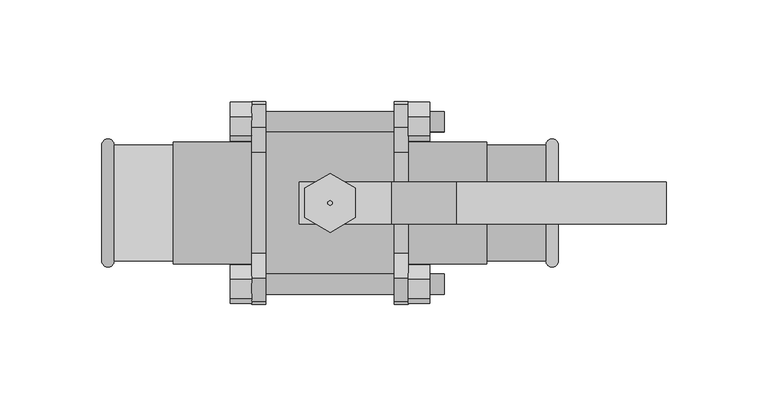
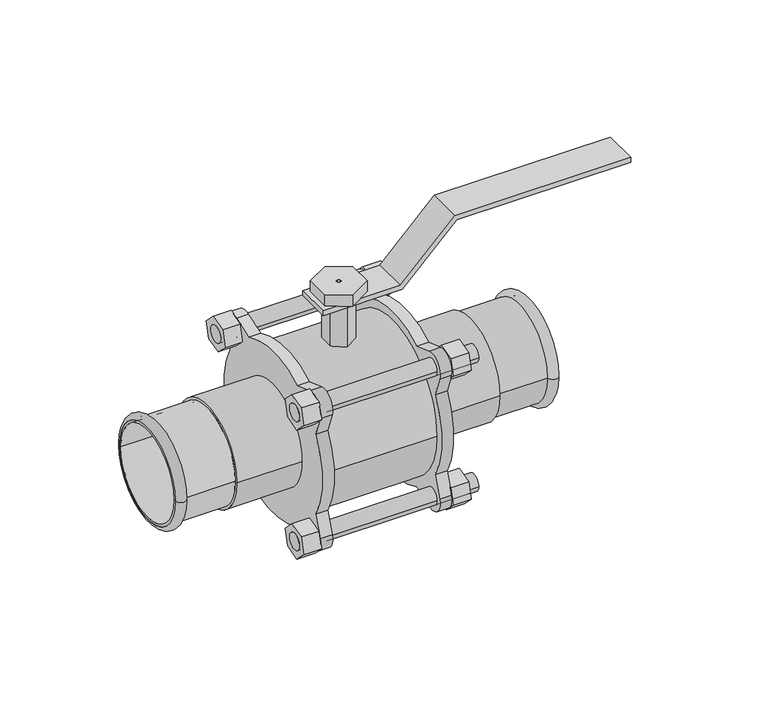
"""IFC4 building model written with IfcOpenShell, lengths in millimetres: valve geometry, NLRS_50_PIA_UN_Geberit Mapress rvs kogelkraan met bedieningshendel, geflensd (FKM blauw)_PRO_332967 : DN12-100 / d15-108 - OD."""

from ifc_helpers import new_model, si_unit, point, frame, frame_2d, origin, origin_2d, place, context, project, spatial, polyline, circle_curve, ellipse_curve, trimmed, segment, composite_curve, outline, extrude, source, transform, mapped, element, save
from ifc_brep_helpers import plane_surface, cylinder_surface, revolved_surface, advanced_brep


def valve_4572d53d(model_context):
    return source(origin(), model_context, "Body", "SolidModel", [
        extrude(outline(polyline([(70.0, 31.2426407), (102.0, 63.2426407), (102.0, 165.0), (105.0, 165.0), (105.0, 62.0), (73.0, 30.0), (73.0, -15.0), (70.0, -15.0), (70.0, 31.2426407)])), frame((0.0, -10.3125, 0.0), z_axis=(0.0, 1.0, 0.0), x_axis=(0.0, 0.0, 1.0)), (0.0, 0.0, 1.0), 20.625),
        advanced_brep(
        [(112.0, -28.5, 0.0), (112.0, 28.5, 0.0), (105.9987073, 28.5, 0.0), (105.9987073, -28.5, 0.0)],
        [
            (0, 1, circle_curve(frame((112.0, 0.0, 0.0), z_axis=(1.0, 0.0, 0.0), x_axis=(0.0, 1.0, 0.0)), 28.5)),
            (1, 2),
            (2, 3, circle_curve(frame((105.9987073, 0.0, 0.0), z_axis=(-1.0, 0.0, 0.0), x_axis=(0.0, 1.0, 0.0)), 28.5)),
            (3, 0),
            (1, 0, circle_curve(frame((112.0, 0.0, 0.0), z_axis=(1.0, 0.0, 0.0), x_axis=(0.0, 1.0, 0.0)), 28.5)),
            (3, 2, circle_curve(frame((105.9987073, 0.0, 0.0), z_axis=(-1.0, 0.0, 0.0), x_axis=(0.0, 1.0, 0.0)), 28.5)),
            (2, 1, circle_curve(frame((108.9993536, 28.5, 0.0), z_axis=(0.0, 0.0, -1.0), x_axis=(1.0, 0.0, 0.0)), 3.0006464)),
            (0, 3, circle_curve(frame((108.9993536, -28.5, 0.0), z_axis=(0.0, 0.0, -1.0), x_axis=(1.0, 0.0, 0.0)), 3.0006464)),
        ],
        [
            revolved_surface(polyline([(105.9987073, 28.5, 0.0), (112.0, 28.5, 0.0)]), (77.0, 0.0, 0.0), (-1.0, 0.0, 0.0)),
            revolved_surface(trimmed(ellipse_curve(frame((108.9993536, 28.5, 0.0), z_axis=(0.0, 0.0, 1.0), x_axis=(1.0, 0.0, 0.0)), 3.0006464, 3.0006464), [point((112.0, 28.5, 0.0))], [point((105.9987073, 28.5, 0.0))], True, "CARTESIAN"), (77.0, 0.0, 0.0), (-1.0, 0.0, 0.0)),
        ],
        [
            (0, [[1, 2, 3, 4]]),
            (0, [[5, -4, 6, -2]]),
            (1, [[-3, 7, -1, 8]]),
            (1, [[-6, -8, -5, -7]]),
        ],
    ),
        advanced_brep(
        [(112.0, -27.0, 0.0), (112.0, 27.0, 0.0), (76.0, 27.0, 0.0), (76.0, -27.0, 0.0), (112.0, -28.5, 0.0), (112.0, 28.5, 0.0), (77.0, -28.5, 0.0), (77.0, 28.5, 0.0)],
        [
            (0, 1, circle_curve(frame((112.0, 0.0, 0.0), z_axis=(1.0, 0.0, 0.0), x_axis=(0.0, 1.0, 0.0)), 27.0)),
            (1, 2),
            (2, 3, circle_curve(frame((76.0, 0.0, 0.0), z_axis=(-1.0, 0.0, 0.0), x_axis=(0.0, 1.0, 0.0)), 27.0)),
            (3, 0),
            (1, 0, circle_curve(frame((112.0, 0.0, 0.0), z_axis=(1.0, 0.0, 0.0), x_axis=(0.0, 1.0, 0.0)), 27.0)),
            (3, 2, circle_curve(frame((76.0, 0.0, 0.0), z_axis=(-1.0, 0.0, 0.0), x_axis=(0.0, 1.0, 0.0)), 27.0)),
            (4, 5, circle_curve(frame((112.0, 0.0, 0.0), z_axis=(1.0, 0.0, 0.0), x_axis=(0.0, 1.0, 0.0)), 28.5)),
            (5, 1),
            (0, 4),
            (5, 4, circle_curve(frame((112.0, 0.0, 0.0), z_axis=(1.0, 0.0, 0.0), x_axis=(0.0, 1.0, 0.0)), 28.5)),
            (6, 7, circle_curve(frame((77.0, 0.0, 0.0), z_axis=(1.0, 0.0, 0.0), x_axis=(0.0, 1.0, 0.0)), 28.5)),
            (7, 5),
            (4, 6),
            (7, 6, circle_curve(frame((77.0, 0.0, 0.0), z_axis=(1.0, 0.0, 0.0), x_axis=(0.0, 1.0, 0.0)), 28.5)),
            (2, 7),
            (6, 3),
        ],
        [
            revolved_surface(polyline([(76.0, 27.0, 0.0), (112.0, 27.0, 0.0)]), (77.0, 0.0, 0.0), (-1.0, 0.0, 0.0)),
            plane_surface(frame((112.0, 0.0, 0.0), z_axis=(1.0, 0.0, 0.0), x_axis=(0.0, 1.0, 0.0))),
            cylinder_surface(frame((77.0, 0.0, 0.0), z_axis=(-1.0, 0.0, 0.0), x_axis=(0.0, 1.0, 0.0)), 28.5),
            revolved_surface(polyline([(77.0, 28.5, 0.0), (76.0, 27.0, 0.0)]), (77.0, 0.0, 0.0), (-1.0, 0.0, 0.0)),
        ],
        [
            (0, [[1, 2, 3, 4]]),
            (0, [[5, -4, 6, -2]]),
            (1, [[7, 8, -1, 9]]),
            (1, [[10, -9, -5, -8]]),
            (2, [[11, 12, -7, 13]]),
            (2, [[14, -13, -10, -12]]),
            (3, [[-3, 15, -11, 16]]),
            (3, [[-6, -16, -14, -15]]),
        ],
    ),
        advanced_brep(
        [(-112.0, 28.5, 0.0), (-112.0, -28.5, 0.0), (-105.9987073, -28.5, 0.0), (-105.9987073, 28.5, 0.0)],
        [
            (0, 1, circle_curve(frame((-112.0, 0.0, 0.0), z_axis=(-1.0, 0.0, 0.0), x_axis=(0.0, -1.0, 0.0)), 28.5)),
            (1, 2),
            (2, 3, circle_curve(frame((-105.9987073, 0.0, 0.0), z_axis=(1.0, 0.0, 0.0), x_axis=(0.0, -1.0, 0.0)), 28.5)),
            (3, 0),
            (1, 0, circle_curve(frame((-112.0, 0.0, 0.0), z_axis=(-1.0, 0.0, 0.0), x_axis=(0.0, -1.0, 0.0)), 28.5)),
            (3, 2, circle_curve(frame((-105.9987073, 0.0, 0.0), z_axis=(1.0, 0.0, 0.0), x_axis=(0.0, -1.0, 0.0)), 28.5)),
            (2, 1, circle_curve(frame((-108.9993536, -28.5, 0.0), z_axis=(0.0, 0.0, -1.0), x_axis=(-1.0, 0.0, 0.0)), 3.0006464)),
            (0, 3, circle_curve(frame((-108.9993536, 28.5, 0.0), z_axis=(0.0, 0.0, -1.0), x_axis=(-1.0, 0.0, 0.0)), 3.0006464)),
        ],
        [
            revolved_surface(polyline([(-105.9987073, -28.5, 0.0), (-112.0, -28.5, 0.0)]), (-77.0, 0.0, 0.0), (1.0, 0.0, 0.0)),
            revolved_surface(trimmed(ellipse_curve(frame((-108.9993536, -28.5, 0.0), z_axis=(0.0, 0.0, 1.0), x_axis=(-1.0, 0.0, 0.0)), 3.0006464, 3.0006464), [point((-112.0, -28.5, 0.0))], [point((-105.9987073, -28.5, 0.0))], True, "CARTESIAN"), (-77.0, 0.0, 0.0), (1.0, 0.0, 0.0)),
        ],
        [
            (0, [[1, 2, 3, 4]]),
            (0, [[5, -4, 6, -2]]),
            (1, [[-3, 7, -1, 8]]),
            (1, [[-6, -8, -5, -7]]),
        ],
    ),
        advanced_brep(
        [(-112.0, 27.0, 0.0), (-112.0, -27.0, 0.0), (-76.0, -27.0, 0.0), (-76.0, 27.0, 0.0), (-112.0, 28.5, 0.0), (-112.0, -28.5, 0.0), (-77.0, 28.5, 0.0), (-77.0, -28.5, 0.0)],
        [
            (0, 1, circle_curve(frame((-112.0, 0.0, 0.0), z_axis=(-1.0, 0.0, 0.0), x_axis=(0.0, -1.0, 0.0)), 27.0)),
            (1, 2),
            (2, 3, circle_curve(frame((-76.0, 0.0, 0.0), z_axis=(1.0, 0.0, 0.0), x_axis=(0.0, -1.0, 0.0)), 27.0)),
            (3, 0),
            (1, 0, circle_curve(frame((-112.0, 0.0, 0.0), z_axis=(-1.0, 0.0, 0.0), x_axis=(0.0, -1.0, 0.0)), 27.0)),
            (3, 2, circle_curve(frame((-76.0, 0.0, 0.0), z_axis=(1.0, 0.0, 0.0), x_axis=(0.0, -1.0, 0.0)), 27.0)),
            (4, 5, circle_curve(frame((-112.0, 0.0, 0.0), z_axis=(-1.0, 0.0, 0.0), x_axis=(0.0, -1.0, 0.0)), 28.5)),
            (5, 1),
            (0, 4),
            (5, 4, circle_curve(frame((-112.0, 0.0, 0.0), z_axis=(-1.0, 0.0, 0.0), x_axis=(0.0, -1.0, 0.0)), 28.5)),
            (6, 7, circle_curve(frame((-77.0, 0.0, 0.0), z_axis=(-1.0, 0.0, 0.0), x_axis=(0.0, -1.0, 0.0)), 28.5)),
            (7, 5),
            (4, 6),
            (7, 6, circle_curve(frame((-77.0, 0.0, 0.0), z_axis=(-1.0, 0.0, 0.0), x_axis=(0.0, -1.0, 0.0)), 28.5)),
            (2, 7),
            (6, 3),
        ],
        [
            revolved_surface(polyline([(-76.0, -27.0, 0.0), (-112.0, -27.0, 0.0)]), (-77.0, 0.0, 0.0), (1.0, 0.0, 0.0)),
            plane_surface(frame((-112.0, 0.0, 0.0), z_axis=(-1.0, 0.0, 0.0), x_axis=(0.0, -1.0, 0.0))),
            cylinder_surface(frame((-77.0, 0.0, 0.0), z_axis=(1.0, 0.0, 0.0), x_axis=(0.0, -1.0, 0.0)), 28.5),
            revolved_surface(polyline([(-77.0, -28.5, 0.0), (-76.0, -27.0, 0.0)]), (-77.0, 0.0, 0.0), (1.0, 0.0, 0.0)),
        ],
        [
            (0, [[1, 2, 3, 4]]),
            (0, [[5, -4, 6, -2]]),
            (1, [[7, 8, -1, 9]]),
            (1, [[10, -9, -5, -8]]),
            (2, [[11, 12, -7, 13]]),
            (2, [[14, -13, -10, -12]]),
            (3, [[-3, 15, -11, 16]]),
            (3, [[-6, -16, -14, -15]]),
        ],
    ),
        advanced_brep(
        [(-49.0, -44.9515331, 39.9515331), (-49.0, -34.9515331, 39.9515331), (-49.0, 34.9515331, 39.9515331), (-49.0, 44.9515331, 39.9515331), (-49.0, -44.9515331, -39.9515331), (-49.0, -34.9515331, -39.9515331), (-49.0, 34.9515331, -39.9515331), (-49.0, 44.9515331, -39.9515331), (56.0, -44.9515331, 39.9515331), (56.0, -34.9515331, 39.9515331), (56.0, 34.9515331, 39.9515331), (56.0, 44.9515331, 39.9515331), (56.0, -44.9515331, -39.9515331), (56.0, -34.9515331, -39.9515331), (56.0, 34.9515331, -39.9515331), (56.0, 44.9515331, -39.9515331), (-38.5, -44.9515331, 39.9515331), (-38.5, -34.9515331, 39.9515331), (-31.5, -34.9515331, 39.9515331), (-31.5, -44.9515331, 39.9515331), (-38.5, 34.9515331, 39.9515331), (-38.5, 44.9515331, 39.9515331), (-31.5, 44.9515331, 39.9515331), (-31.5, 34.9515331, 39.9515331), (-38.5, -44.9515331, -39.9515331), (-38.5, -34.9515331, -39.9515331), (-31.5, -34.9515331, -39.9515331), (-31.5, -44.9515331, -39.9515331), (-38.5, 34.9515331, -39.9515331), (-38.5, 44.9515331, -39.9515331), (-31.5, 44.9515331, -39.9515331), (-31.5, 34.9515331, -39.9515331), (-38.5, -43.4565382, 24.7291181), (-38.5, -47.9389204, 37.0443619), (-38.5, -37.0443619, 47.9389204), (-38.5, -24.7291181, 43.4565382), (-38.5, 24.7291181, 43.4565382), (-38.5, 37.0443619, 47.9389204), (-38.5, 47.9389204, 37.0443619), (-38.5, 43.4565382, 24.7291181), (-38.5, 43.4565382, -24.7291181), (-38.5, 47.9389204, -37.0443619), (-38.5, 37.0443619, -47.9389204), (-38.5, 24.7291181, -43.4565382), (-38.5, -24.7291181, -43.4565382), (-38.5, -37.0443619, -47.9389204), (-38.5, -47.9389204, -37.0443619), (-38.5, -43.4565382, -24.7291181), (-31.5, -43.4565382, 24.7291181), (-31.5, -43.4565382, -24.7291181), (-31.5, -47.9389204, -37.0443619), (-31.5, -37.0443619, -47.9389204), (-31.5, -24.7291181, -43.4565382), (-31.5, 24.7291181, -43.4565382), (-31.5, 37.0443619, -47.9389204), (-31.5, 47.9389204, -37.0443619), (-31.5, 43.4565382, -24.7291181), (-31.5, 43.4565382, 24.7291181), (-31.5, 47.9389204, 37.0443619), (-31.5, 37.0443619, 47.9389204), (-31.5, 24.7291181, 43.4565382), (-31.5, -24.7291181, 43.4565382), (-31.5, -37.0443619, 47.9389204), (-31.5, -47.9389204, 37.0443619)],
        [
            (0, 1, circle_curve(frame((-49.0, -39.9515331, 39.9515331), z_axis=(-1.0, 0.0, 0.0), x_axis=(0.0, 1.0, 0.0)), 5.0)),
            (1, 0, circle_curve(frame((-49.0, -39.9515331, 39.9515331), z_axis=(-1.0, 0.0, 0.0), x_axis=(0.0, 1.0, 0.0)), 5.0)),
            (2, 3, circle_curve(frame((-49.0, 39.9515331, 39.9515331), z_axis=(-1.0, 0.0, 0.0), x_axis=(0.0, 1.0, 0.0)), 5.0)),
            (3, 2, circle_curve(frame((-49.0, 39.9515331, 39.9515331), z_axis=(-1.0, 0.0, 0.0), x_axis=(0.0, 1.0, 0.0)), 5.0)),
            (4, 5, circle_curve(frame((-49.0, -39.9515331, -39.9515331), z_axis=(-1.0, 0.0, 0.0), x_axis=(0.0, 1.0, 0.0)), 5.0)),
            (5, 4, circle_curve(frame((-49.0, -39.9515331, -39.9515331), z_axis=(-1.0, 0.0, 0.0), x_axis=(0.0, 1.0, 0.0)), 5.0)),
            (6, 7, circle_curve(frame((-49.0, 39.9515331, -39.9515331), z_axis=(-1.0, 0.0, 0.0), x_axis=(0.0, 1.0, 0.0)), 5.0)),
            (7, 6, circle_curve(frame((-49.0, 39.9515331, -39.9515331), z_axis=(-1.0, 0.0, 0.0), x_axis=(0.0, 1.0, 0.0)), 5.0)),
            (8, 9, circle_curve(frame((56.0, -39.9515331, 39.9515331), z_axis=(1.0, 0.0, 0.0), x_axis=(0.0, 1.0, 0.0)), 5.0)),
            (9, 8, circle_curve(frame((56.0, -39.9515331, 39.9515331), z_axis=(1.0, 0.0, 0.0), x_axis=(0.0, 1.0, 0.0)), 5.0)),
            (10, 11, circle_curve(frame((56.0, 39.9515331, 39.9515331), z_axis=(1.0, 0.0, 0.0), x_axis=(0.0, 1.0, 0.0)), 5.0)),
            (11, 10, circle_curve(frame((56.0, 39.9515331, 39.9515331), z_axis=(1.0, 0.0, 0.0), x_axis=(0.0, 1.0, 0.0)), 5.0)),
            (12, 13, circle_curve(frame((56.0, -39.9515331, -39.9515331), z_axis=(1.0, 0.0, 0.0), x_axis=(0.0, 1.0, 0.0)), 5.0)),
            (13, 12, circle_curve(frame((56.0, -39.9515331, -39.9515331), z_axis=(1.0, 0.0, 0.0), x_axis=(0.0, 1.0, 0.0)), 5.0)),
            (14, 15, circle_curve(frame((56.0, 39.9515331, -39.9515331), z_axis=(1.0, 0.0, 0.0), x_axis=(0.0, 1.0, 0.0)), 5.0)),
            (15, 14, circle_curve(frame((56.0, 39.9515331, -39.9515331), z_axis=(1.0, 0.0, 0.0), x_axis=(0.0, 1.0, 0.0)), 5.0)),
            (0, 16),
            (16, 17, circle_curve(frame((-38.5, -39.9515331, 39.9515331), z_axis=(-1.0, 0.0, 0.0), x_axis=(0.0, 1.0, 0.0)), 5.0)),
            (17, 1),
            (9, 18),
            (18, 19, circle_curve(frame((-31.5, -39.9515331, 39.9515331), z_axis=(1.0, 0.0, 0.0), x_axis=(0.0, 1.0, 0.0)), 5.0)),
            (19, 8),
            (17, 16, circle_curve(frame((-38.5, -39.9515331, 39.9515331), z_axis=(-1.0, 0.0, 0.0), x_axis=(0.0, 1.0, 0.0)), 5.0)),
            (19, 18, circle_curve(frame((-31.5, -39.9515331, 39.9515331), z_axis=(1.0, 0.0, 0.0), x_axis=(0.0, 1.0, 0.0)), 5.0)),
            (2, 20),
            (20, 21, circle_curve(frame((-38.5, 39.9515331, 39.9515331), z_axis=(-1.0, 0.0, 0.0), x_axis=(0.0, 1.0, 0.0)), 5.0)),
            (21, 3),
            (11, 22),
            (22, 23, circle_curve(frame((-31.5, 39.9515331, 39.9515331), z_axis=(1.0, 0.0, 0.0), x_axis=(0.0, 1.0, 0.0)), 5.0)),
            (23, 10),
            (21, 20, circle_curve(frame((-38.5, 39.9515331, 39.9515331), z_axis=(-1.0, 0.0, 0.0), x_axis=(0.0, 1.0, 0.0)), 5.0)),
            (23, 22, circle_curve(frame((-31.5, 39.9515331, 39.9515331), z_axis=(1.0, 0.0, 0.0), x_axis=(0.0, 1.0, 0.0)), 5.0)),
            (4, 24),
            (24, 25, circle_curve(frame((-38.5, -39.9515331, -39.9515331), z_axis=(-1.0, 0.0, 0.0), x_axis=(0.0, 1.0, 0.0)), 5.0)),
            (25, 5),
            (13, 26),
            (26, 27, circle_curve(frame((-31.5, -39.9515331, -39.9515331), z_axis=(1.0, 0.0, 0.0), x_axis=(0.0, 1.0, 0.0)), 5.0)),
            (27, 12),
            (25, 24, circle_curve(frame((-38.5, -39.9515331, -39.9515331), z_axis=(-1.0, 0.0, 0.0), x_axis=(0.0, 1.0, 0.0)), 5.0)),
            (27, 26, circle_curve(frame((-31.5, -39.9515331, -39.9515331), z_axis=(1.0, 0.0, 0.0), x_axis=(0.0, 1.0, 0.0)), 5.0)),
            (6, 28),
            (28, 29, circle_curve(frame((-38.5, 39.9515331, -39.9515331), z_axis=(-1.0, 0.0, 0.0), x_axis=(0.0, 1.0, 0.0)), 5.0)),
            (29, 7),
            (15, 30),
            (30, 31, circle_curve(frame((-31.5, 39.9515331, -39.9515331), z_axis=(1.0, 0.0, 0.0), x_axis=(0.0, 1.0, 0.0)), 5.0)),
            (31, 14),
            (29, 28, circle_curve(frame((-38.5, 39.9515331, -39.9515331), z_axis=(-1.0, 0.0, 0.0), x_axis=(0.0, 1.0, 0.0)), 5.0)),
            (31, 30, circle_curve(frame((-31.5, 39.9515331, -39.9515331), z_axis=(1.0, 0.0, 0.0), x_axis=(0.0, 1.0, 0.0)), 5.0)),
            (32, 33),
            (33, 34, circle_curve(frame((-38.5, -39.9515331, 39.9515331), z_axis=(-1.0, 0.0, 0.0), x_axis=(0.0, 1.0, 0.0)), 8.5)),
            (34, 35),
            (35, 36, circle_curve(frame((-38.5, 0.0, 0.0), z_axis=(-1.0, 0.0, 0.0), x_axis=(0.0, 1.0, 0.0)), 50.0)),
            (36, 37),
            (37, 38, circle_curve(frame((-38.5, 39.9515331, 39.9515331), z_axis=(-1.0, 0.0, 0.0), x_axis=(0.0, 1.0, 0.0)), 8.5)),
            (38, 39),
            (39, 40, circle_curve(frame((-38.5, 0.0, 0.0), z_axis=(-1.0, 0.0, 0.0), x_axis=(0.0, 1.0, 0.0)), 50.0)),
            (40, 41),
            (41, 42, circle_curve(frame((-38.5, 39.9515331, -39.9515331), z_axis=(-1.0, 0.0, 0.0), x_axis=(0.0, 1.0, 0.0)), 8.5)),
            (42, 43),
            (43, 44, circle_curve(frame((-38.5, 0.0, 0.0), z_axis=(-1.0, 0.0, 0.0), x_axis=(0.0, 1.0, 0.0)), 50.0)),
            (44, 45),
            (45, 46, circle_curve(frame((-38.5, -39.9515331, -39.9515331), z_axis=(-1.0, 0.0, 0.0), x_axis=(0.0, 1.0, 0.0)), 8.5)),
            (46, 47),
            (47, 32, circle_curve(frame((-38.5, 0.0, 0.0), z_axis=(-1.0, 0.0, 0.0), x_axis=(0.0, 1.0, 0.0)), 50.0)),
            (48, 49, circle_curve(frame((-31.5, 0.0, 0.0), z_axis=(1.0, 0.0, 0.0), x_axis=(0.0, 1.0, 0.0)), 50.0)),
            (49, 50),
            (50, 51, circle_curve(frame((-31.5, -39.9515331, -39.9515331), z_axis=(1.0, 0.0, 0.0), x_axis=(0.0, 1.0, 0.0)), 8.5)),
            (51, 52),
            (52, 53, circle_curve(frame((-31.5, 0.0, 0.0), z_axis=(1.0, 0.0, 0.0), x_axis=(0.0, 1.0, 0.0)), 50.0)),
            (53, 54),
            (54, 55, circle_curve(frame((-31.5, 39.9515331, -39.9515331), z_axis=(1.0, 0.0, 0.0), x_axis=(0.0, 1.0, 0.0)), 8.5)),
            (55, 56),
            (56, 57, circle_curve(frame((-31.5, 0.0, 0.0), z_axis=(1.0, 0.0, 0.0), x_axis=(0.0, 1.0, 0.0)), 50.0)),
            (57, 58),
            (58, 59, circle_curve(frame((-31.5, 39.9515331, 39.9515331), z_axis=(1.0, 0.0, 0.0), x_axis=(0.0, 1.0, 0.0)), 8.5)),
            (59, 60),
            (60, 61, circle_curve(frame((-31.5, 0.0, 0.0), z_axis=(1.0, 0.0, 0.0), x_axis=(0.0, 1.0, 0.0)), 50.0)),
            (61, 62),
            (62, 63, circle_curve(frame((-31.5, -39.9515331, 39.9515331), z_axis=(1.0, 0.0, 0.0), x_axis=(0.0, 1.0, 0.0)), 8.5)),
            (63, 48),
            (32, 48),
            (63, 33),
            (62, 34),
            (61, 35),
            (60, 36),
            (59, 37),
            (58, 38),
            (57, 39),
            (56, 40),
            (55, 41),
            (54, 42),
            (53, 43),
            (52, 44),
            (51, 45),
            (50, 46),
            (49, 47),
        ],
        [
            plane_surface(frame((-49.0, 0.0, 0.0), z_axis=(-1.0, 0.0, 0.0), x_axis=(0.0, 0.0, 1.0))),
            plane_surface(frame((56.0, 0.0, 0.0), z_axis=(1.0, 0.0, 0.0), x_axis=(0.0, 0.0, 1.0))),
            cylinder_surface(frame((-49.0, -39.9515331, 39.9515331), z_axis=(-1.0, 0.0, 0.0), x_axis=(0.0, 1.0, 0.0)), 5.0),
            cylinder_surface(frame((-49.0, 39.9515331, 39.9515331), z_axis=(-1.0, 0.0, 0.0), x_axis=(0.0, 1.0, 0.0)), 5.0),
            cylinder_surface(frame((-49.0, -39.9515331, -39.9515331), z_axis=(-1.0, 0.0, 0.0), x_axis=(0.0, 1.0, 0.0)), 5.0),
            cylinder_surface(frame((-49.0, 39.9515331, -39.9515331), z_axis=(-1.0, 0.0, 0.0), x_axis=(0.0, 1.0, 0.0)), 5.0),
            plane_surface(frame((-38.5, 0.0, 0.0), z_axis=(-1.0, 0.0, 0.0), x_axis=(0.0, 0.0, 1.0))),
            plane_surface(frame((-31.5, 0.0, 0.0), z_axis=(1.0, 0.0, 0.0), x_axis=(0.0, 0.0, 1.0))),
            plane_surface(frame((-38.5, -43.4565382, 24.7291181), z_axis=(0.0, -0.9396926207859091, -0.3420201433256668), x_axis=(1.0, 0.0, 0.0))),
            cylinder_surface(frame((-38.5, -39.9515331, 39.9515331), z_axis=(-1.0, 0.0, 0.0), x_axis=(0.0, 1.0, 0.0)), 8.5),
            plane_surface(frame((-38.5, -37.0443619, 47.9389204), z_axis=(0.0, 0.34202014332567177, 0.9396926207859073), x_axis=(1.0, 0.0, 0.0))),
            cylinder_surface(frame((-38.5, 0.0, 0.0), z_axis=(-1.0, 0.0, 0.0), x_axis=(0.0, 1.0, 0.0)), 50.0),
            plane_surface(frame((-38.5, 24.7291181, 43.4565382), z_axis=(0.0, -0.34202014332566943, 0.9396926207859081), x_axis=(1.0, 0.0, 0.0))),
            cylinder_surface(frame((-38.5, 39.9515331, 39.9515331), z_axis=(-1.0, 0.0, 0.0), x_axis=(0.0, 1.0, 0.0)), 8.5),
            plane_surface(frame((-38.5, 47.9389204, 37.0443619), z_axis=(0.0, 0.9396926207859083, -0.34202014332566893), x_axis=(1.0, 0.0, 0.0))),
            plane_surface(frame((-38.5, 43.4565382, -24.7291181), z_axis=(0.0, 0.9396926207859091, 0.34202014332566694), x_axis=(1.0, 0.0, 0.0))),
            cylinder_surface(frame((-38.5, 39.9515331, -39.9515331), z_axis=(-1.0, 0.0, 0.0), x_axis=(0.0, 1.0, 0.0)), 8.5),
            plane_surface(frame((-38.5, 37.0443619, -47.9389204), z_axis=(0.0, -0.3420201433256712, -0.9396926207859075), x_axis=(1.0, 0.0, 0.0))),
            plane_surface(frame((-38.5, -24.7291181, -43.4565382), z_axis=(0.0, 0.34202014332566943, -0.9396926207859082), x_axis=(1.0, 0.0, 0.0))),
            cylinder_surface(frame((-38.5, -39.9515331, -39.9515331), z_axis=(-1.0, 0.0, 0.0), x_axis=(0.0, 1.0, 0.0)), 8.5),
            plane_surface(frame((-38.5, -47.9389204, -37.0443619), z_axis=(0.0, -0.9396926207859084, 0.34202014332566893), x_axis=(1.0, 0.0, 0.0))),
        ],
        [
            (0, [[1, 2]]),
            (0, [[3, 4]]),
            (0, [[5, 6]]),
            (0, [[7, 8]]),
            (1, [[9, 10]]),
            (1, [[11, 12]]),
            (1, [[13, 14]]),
            (1, [[15, 16]]),
            (2, [[-1, 17, 18, 19]]),
            (2, [[-10, 20, 21, 22]]),
            (2, [[-2, -19, 23, -17]]),
            (2, [[-9, -22, 24, -20]]),
            (3, [[-3, 25, 26, 27]]),
            (3, [[-12, 28, 29, 30]]),
            (3, [[-4, -27, 31, -25]]),
            (3, [[-11, -30, 32, -28]]),
            (4, [[-5, 33, 34, 35]]),
            (4, [[-14, 36, 37, 38]]),
            (4, [[-6, -35, 39, -33]]),
            (4, [[-13, -38, 40, -36]]),
            (5, [[-7, 41, 42, 43]]),
            (5, [[-16, 44, 45, 46]]),
            (5, [[-8, -43, 47, -41]]),
            (5, [[-15, -46, 48, -44]]),
            (6, [[49, 50, 51, 52, 53, 54, 55, 56, 57, 58, 59, 60, 61, 62, 63, 64], [-18, -23], [-26, -31], [-34, -39], [-42, -47]]),
            (7, [[65, 66, 67, 68, 69, 70, 71, 72, 73, 74, 75, 76, 77, 78, 79, 80], [-21, -24], [-29, -32], [-37, -40], [-45, -48]]),
            (8, [[-49, 81, -80, 82]]),
            (9, [[-50, -82, -79, 83]]),
            (10, [[-51, -83, -78, 84]]),
            (11, [[-52, -84, -77, 85]]),
            (12, [[-53, -85, -76, 86]]),
            (13, [[-54, -86, -75, 87]]),
            (14, [[-55, -87, -74, 88]]),
            (11, [[-56, -88, -73, 89]]),
            (15, [[-57, -89, -72, 90]]),
            (16, [[-58, -90, -71, 91]]),
            (17, [[-59, -91, -70, 92]]),
            (11, [[-60, -92, -69, 93]]),
            (18, [[-61, -93, -68, 94]]),
            (19, [[-62, -94, -67, 95]]),
            (20, [[-63, -95, -66, 96]]),
            (11, [[-64, -96, -65, -81]]),
        ],
    ),
        advanced_brep(
        [(-31.5, -45.0, 0.0), (-31.5, 45.0, 0.0), (31.5, -45.0, 0.0), (31.5, 45.0, 0.0), (0.0, -8.660254, 44.1588043), (-7.5, -4.330127, 44.7911822), (-7.5, 4.330127, 44.7911822), (0.0, 8.660254, 44.1588043), (7.5, 4.330127, 44.7911822), (7.5, -4.330127, 44.7911822), (-1.0, -0.5773503, 44.9962961), (0.0, -1.1547005, 44.9851827), (1.0, -0.5773503, 44.9962961), (1.0, 0.5773503, 44.9962961), (0.0, 1.1547005, 44.9851827), (-1.0, 0.5773503, 44.9962961), (-12.5, -7.2168784, 80.0), (-12.5, -7.2168784, 73.0), (0.0, -14.4337567, 73.0), (0.0, -14.4337567, 80.0), (-1.0, -0.5773503, 80.0), (0.0, -1.1547005, 80.0), (0.0, -8.660254, 73.0), (-7.5, -4.330127, 73.0), (12.5, -7.2168784, 73.0), (12.5, -7.2168784, 80.0), (1.0, -0.5773503, 80.0), (7.5, -4.330127, 73.0), (12.5, 7.2168784, 80.0), (12.5, 7.2168784, 73.0), (0.0, 14.4337567, 73.0), (0.0, 14.4337567, 80.0), (1.0, 0.5773503, 80.0), (0.0, 1.1547005, 80.0), (0.0, 8.660254, 73.0), (7.5, 4.330127, 73.0), (-12.5, 7.2168784, 73.0), (-12.5, 7.2168784, 80.0), (-1.0, 0.5773503, 80.0), (-7.5, 4.330127, 73.0)],
        [
            (0, 1, circle_curve(frame((-31.5, 0.0, 0.0), z_axis=(-1.0, 0.0, 0.0), x_axis=(0.0, 1.0, 0.0)), 45.0)),
            (1, 0, circle_curve(frame((-31.5, 0.0, 0.0), z_axis=(-1.0, 0.0, 0.0), x_axis=(0.0, 1.0, 0.0)), 45.0)),
            (2, 3, circle_curve(frame((31.5, 0.0, 0.0), z_axis=(1.0, 0.0, 0.0), x_axis=(0.0, 1.0, 0.0)), 45.0)),
            (3, 2, circle_curve(frame((31.5, 0.0, 0.0), z_axis=(1.0, 0.0, 0.0), x_axis=(0.0, 1.0, 0.0)), 45.0)),
            (0, 2),
            (3, 1),
            (4, 5, ellipse_curve(frame((-15.0, 0.0, 0.0), z_axis=(-0.5000000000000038, -0.8660254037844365, 0.0), x_axis=(-0.8660254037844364, 0.5000000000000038, 0.0)), 90.0, 45.0)),
            (5, 6, circle_curve(frame((-7.5, 0.0, 0.0), z_axis=(-1.0, 0.0, 0.0), x_axis=(0.0, 1.0, 0.0)), 45.0)),
            (6, 7, ellipse_curve(frame((-15.0, 0.0, 0.0), z_axis=(-0.4999999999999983, 0.8660254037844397, 0.0), x_axis=(-0.8660254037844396, -0.4999999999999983, 0.0)), 90.0, 45.0)),
            (7, 8, ellipse_curve(frame((15.0, 0.0, 0.0), z_axis=(0.5000000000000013, 0.8660254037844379, 0.0), x_axis=(-0.8660254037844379, 0.5000000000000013, 0.0)), 90.0, 45.0)),
            (8, 9, circle_curve(frame((7.5, 0.0, 0.0), z_axis=(1.0, 0.0, 0.0), x_axis=(0.0, 1.0, 0.0)), 45.0)),
            (9, 4, ellipse_curve(frame((15.0, 0.0, 0.0), z_axis=(0.4999999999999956, -0.8660254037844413, 0.0), x_axis=(-0.8660254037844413, -0.49999999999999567, 0.0)), 90.0, 45.0)),
            (10, 11, ellipse_curve(frame((-2.0, 0.0, 0.0), z_axis=(0.5000000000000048, 0.866025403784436, 0.0), x_axis=(-0.8660254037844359, 0.5000000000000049, 0.0)), 90.0, 45.0)),
            (11, 12, ellipse_curve(frame((2.0, 0.0, 0.0), z_axis=(-0.4999999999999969, 0.8660254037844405, 0.0), x_axis=(-0.8660254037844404, -0.4999999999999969, 0.0)), 90.0, 45.0)),
            (12, 13, circle_curve(frame((1.0, 0.0, 0.0), z_axis=(-1.0, 0.0, 0.0), x_axis=(0.0, 1.0, 0.0)), 45.0)),
            (13, 14, ellipse_curve(frame((2.0, 0.0, 0.0), z_axis=(-0.5000000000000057, -0.8660254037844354, 0.0), x_axis=(-0.8660254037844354, 0.5000000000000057, 0.0)), 90.0, 45.0)),
            (14, 15, ellipse_curve(frame((-2.0, 0.0, 0.0), z_axis=(0.5000000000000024, -0.8660254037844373, 0.0), x_axis=(-0.8660254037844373, -0.5000000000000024, 0.0)), 90.0, 45.0)),
            (15, 10, circle_curve(frame((-1.0, 0.0, 0.0), z_axis=(1.0, 0.0, 0.0), x_axis=(0.0, 1.0, 0.0)), 45.0)),
            (16, 17),
            (17, 18),
            (18, 19),
            (19, 16),
            (20, 21),
            (21, 11),
            (10, 20),
            (22, 23),
            (23, 5),
            (4, 22),
            (18, 24),
            (24, 25),
            (25, 19),
            (21, 26),
            (26, 12),
            (27, 22),
            (9, 27),
            (28, 29),
            (29, 30),
            (30, 31),
            (31, 28),
            (32, 33),
            (33, 14),
            (13, 32),
            (34, 35),
            (35, 8),
            (7, 34),
            (30, 36),
            (36, 37),
            (37, 31),
            (33, 38),
            (38, 15),
            (39, 34),
            (6, 39),
            (24, 29),
            (28, 25),
            (26, 32),
            (35, 27),
            (17, 36),
            (39, 23),
            (16, 37),
            (20, 38),
        ],
        [
            plane_surface(frame((-31.5, 0.0, 0.0), z_axis=(-1.0, 0.0, 0.0), x_axis=(0.0, 0.0, 1.0))),
            plane_surface(frame((31.5, 0.0, 0.0), z_axis=(1.0, 0.0, 0.0), x_axis=(0.0, 0.0, 1.0))),
            cylinder_surface(frame((-31.5, 0.0, 0.0), z_axis=(-1.0, 0.0, 0.0), x_axis=(0.0, 1.0, 0.0)), 45.0),
            plane_surface(frame((-12.5, -7.2168784, 73.0), z_axis=(-0.5000000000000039, -0.8660254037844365, 0.0), x_axis=(0.8660254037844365, -0.5000000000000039, 0.0))),
            plane_surface(frame((-1.0, -0.5773503, 80.0), z_axis=(0.5000000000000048, 0.866025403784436, 0.0), x_axis=(0.866025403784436, -0.5000000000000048, 0.0))),
            plane_surface(frame((-7.5, -4.330127, 0.0), z_axis=(-0.5000000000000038, -0.8660254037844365, 0.0), x_axis=(0.8660254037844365, -0.5000000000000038, 0.0))),
            plane_surface(frame((0.0, -14.4337567, 73.0), z_axis=(0.49999999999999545, -0.8660254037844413, 0.0), x_axis=(0.8660254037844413, 0.49999999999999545, 0.0))),
            plane_surface(frame((0.0, -1.1547005, 80.0), z_axis=(-0.4999999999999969, 0.8660254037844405, 0.0), x_axis=(0.8660254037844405, 0.4999999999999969, 0.0))),
            plane_surface(frame((0.0, -8.660254, 0.0), z_axis=(0.4999999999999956, -0.8660254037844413, 0.0), x_axis=(0.8660254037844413, 0.4999999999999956, 0.0))),
            plane_surface(frame((12.5, 7.2168784, 73.0), z_axis=(0.5000000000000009, 0.8660254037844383, 0.0), x_axis=(-0.8660254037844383, 0.5000000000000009, 0.0))),
            plane_surface(frame((1.0, 0.5773503, 80.0), z_axis=(-0.5000000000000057, -0.8660254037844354, 0.0), x_axis=(-0.8660254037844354, 0.5000000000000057, 0.0))),
            plane_surface(frame((7.5, 4.330127, 0.0), z_axis=(0.5000000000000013, 0.8660254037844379, 0.0), x_axis=(-0.8660254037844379, 0.5000000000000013, 0.0))),
            plane_surface(frame((0.0, 14.4337567, 73.0), z_axis=(-0.4999999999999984, 0.8660254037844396, 0.0), x_axis=(-0.8660254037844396, -0.4999999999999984, 0.0))),
            plane_surface(frame((0.0, 1.1547005, 80.0), z_axis=(0.5000000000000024, -0.8660254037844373, 0.0), x_axis=(-0.8660254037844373, -0.5000000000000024, 0.0))),
            plane_surface(frame((0.0, 8.660254, 0.0), z_axis=(-0.4999999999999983, 0.8660254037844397, 0.0), x_axis=(-0.8660254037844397, -0.4999999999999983, 0.0))),
            plane_surface(frame((12.5, -7.2168784, 73.0), z_axis=(1.0, 0.0, 0.0), x_axis=(0.0, 1.0, 0.0))),
            plane_surface(frame((1.0, -0.5773503, 80.0), z_axis=(-1.0, 0.0, 0.0), x_axis=(0.0, 1.0, 0.0))),
            plane_surface(frame((7.5, -4.330127, 0.0), z_axis=(1.0, 0.0, 0.0), x_axis=(0.0, 1.0, 0.0))),
            plane_surface(frame((-7.5, 4.330127, 73.0), z_axis=(0.0, 0.0, -1.0), x_axis=(0.0, -1.0, 0.0))),
            plane_surface(frame((-12.5, 7.2168784, 73.0), z_axis=(-1.0, 0.0, 0.0), x_axis=(0.0, -1.0, 0.0))),
            plane_surface(frame((-12.5, 7.2168784, 80.0), z_axis=(0.0, 0.0, 1.0), x_axis=(0.0, -1.0, 0.0))),
            plane_surface(frame((-1.0, 0.5773503, 80.0), z_axis=(1.0, 0.0, 0.0), x_axis=(0.0, -1.0, 0.0))),
            plane_surface(frame((-7.5, 4.330127, 0.0), z_axis=(-1.0, 0.0, 0.0), x_axis=(0.0, -1.0, 0.0))),
        ],
        [
            (0, [[1, 2]]),
            (1, [[3, 4]]),
            (2, [[-1, 5, -4, 6], [7, 8, 9, 10, 11, 12]]),
            (2, [[13, 14, 15, 16, 17, 18]]),
            (2, [[-2, -6, -3, -5]]),
            (3, [[19, 20, 21, 22]]),
            (4, [[23, 24, -13, 25]]),
            (5, [[26, 27, -7, 28]]),
            (6, [[-21, 29, 30, 31]]),
            (7, [[32, 33, -14, -24]]),
            (8, [[34, -28, -12, 35]]),
            (9, [[36, 37, 38, 39]]),
            (10, [[40, 41, -16, 42]]),
            (11, [[43, 44, -10, 45]]),
            (12, [[-38, 46, 47, 48]]),
            (13, [[49, 50, -17, -41]]),
            (14, [[51, -45, -9, 52]]),
            (15, [[-30, 53, -36, 54]]),
            (16, [[55, -42, -15, -33]]),
            (17, [[56, -35, -11, -44]]),
            (18, [[-20, 57, -46, -37, -53, -29], [-26, -34, -56, -43, -51, 58]]),
            (19, [[-19, 59, -47, -57]]),
            (20, [[-22, -31, -54, -39, -48, -59], [-23, 60, -49, -40, -55, -32]]),
            (21, [[-60, -25, -18, -50]]),
            (22, [[-58, -52, -8, -27]]),
        ],
    ),
        extrude(outline(composite_curve([segment(trimmed(circle_curve(origin_2d(), 30.0), [point((-30.0, 0.0))], [point((30.0, 0.0))], False, "CARTESIAN"), True, "CONTINUOUS"), segment(trimmed(circle_curve(origin_2d(), 30.0), [point((30.0, 0.0))], [point((-30.0, 0.0))], False, "CARTESIAN"), True, "CONTINUOUS")], self_intersect=False)), frame((38.5, 0.0, 0.0), z_axis=(1.0, 0.0, 0.0), x_axis=(0.0, 1.0, 0.0)), (0.0, 0.0, 1.0), 38.5),
        extrude(outline(composite_curve([segment(trimmed(circle_curve(origin_2d(), 30.0), [point((-30.0, 0.0))], [point((30.0, 0.0))], False, "CARTESIAN"), True, "CONTINUOUS"), segment(trimmed(circle_curve(origin_2d(), 30.0), [point((30.0, 0.0))], [point((-30.0, 0.0))], False, "CARTESIAN"), True, "CONTINUOUS")], self_intersect=False)), frame((-77.0, 0.0, 0.0), z_axis=(1.0, 0.0, 0.0), x_axis=(0.0, 1.0, 0.0)), (0.0, 0.0, 1.0), 38.5),
        extrude(outline(polyline([(46.8917541, 33.0113122), (37.411236, 30.471015), (30.471015, 37.411236), (33.0113122, 46.8917541), (42.4918303, 49.4320512), (49.4320512, 42.4918303), (46.8917541, 33.0113122)]), holes=[composite_curve([segment(trimmed(circle_curve(frame_2d((39.9515331, 39.9515331)), 5.0), [point((44.9515331, 39.9515331))], [point((34.9515331, 39.9515331))], True, "CARTESIAN"), True, "CONTINUOUS"), segment(trimmed(circle_curve(frame_2d((39.9515331, 39.9515331)), 5.0), [point((34.9515331, 39.9515331))], [point((44.9515331, 39.9515331))], True, "CARTESIAN"), True, "CONTINUOUS")], self_intersect=False)]), frame((38.5, 0.0, 0.0), z_axis=(1.0, 0.0, 0.0), x_axis=(0.0, 1.0, 0.0)), (0.0, 0.0, 1.0), 10.5),
        extrude(outline(polyline([(-33.0113122, 33.0113122), (-42.4918303, 30.471015), (-49.4320512, 37.411236), (-46.8917541, 46.8917541), (-37.411236, 49.4320512), (-30.471015, 42.4918303), (-33.0113122, 33.0113122)]), holes=[composite_curve([segment(trimmed(circle_curve(frame_2d((-39.9515331, 39.9515331)), 5.0), [point((-34.9515331, 39.9515331))], [point((-44.9515331, 39.9515331))], True, "CARTESIAN"), True, "CONTINUOUS"), segment(trimmed(circle_curve(frame_2d((-39.9515331, 39.9515331)), 5.0), [point((-44.9515331, 39.9515331))], [point((-34.9515331, 39.9515331))], True, "CARTESIAN"), True, "CONTINUOUS")], self_intersect=False)]), frame((38.5, 0.0, 0.0), z_axis=(1.0, 0.0, 0.0), x_axis=(0.0, 1.0, 0.0)), (0.0, 0.0, 1.0), 10.5),
        extrude(outline(polyline([(-33.0113122, -46.8917541), (-42.4918303, -49.4320512), (-49.4320512, -42.4918303), (-46.8917541, -33.0113122), (-37.411236, -30.471015), (-30.471015, -37.411236), (-33.0113122, -46.8917541)]), holes=[composite_curve([segment(trimmed(circle_curve(frame_2d((-39.9515331, -39.9515331)), 5.0), [point((-34.9515331, -39.9515331))], [point((-44.9515331, -39.9515331))], True, "CARTESIAN"), True, "CONTINUOUS"), segment(trimmed(circle_curve(frame_2d((-39.9515331, -39.9515331)), 5.0), [point((-44.9515331, -39.9515331))], [point((-34.9515331, -39.9515331))], True, "CARTESIAN"), True, "CONTINUOUS")], self_intersect=False)]), frame((38.5, 0.0, 0.0), z_axis=(1.0, 0.0, 0.0), x_axis=(0.0, 1.0, 0.0)), (0.0, 0.0, 1.0), 10.5),
        extrude(outline(polyline([(46.8917541, -46.8917541), (37.411236, -49.4320512), (30.471015, -42.4918303), (33.0113122, -33.0113122), (42.4918303, -30.471015), (49.4320512, -37.411236), (46.8917541, -46.8917541)]), holes=[composite_curve([segment(trimmed(circle_curve(frame_2d((39.9515331, -39.9515331)), 5.0), [point((44.9515331, -39.9515331))], [point((34.9515331, -39.9515331))], True, "CARTESIAN"), True, "CONTINUOUS"), segment(trimmed(circle_curve(frame_2d((39.9515331, -39.9515331)), 5.0), [point((34.9515331, -39.9515331))], [point((44.9515331, -39.9515331))], True, "CARTESIAN"), True, "CONTINUOUS")], self_intersect=False)]), frame((38.5, 0.0, 0.0), z_axis=(1.0, 0.0, 0.0), x_axis=(0.0, 1.0, 0.0)), (0.0, 0.0, 1.0), 10.5),
        extrude(outline(polyline([(46.8917541, 33.0113122), (37.411236, 30.471015), (30.471015, 37.411236), (33.0113122, 46.8917541), (42.4918303, 49.4320512), (49.4320512, 42.4918303), (46.8917541, 33.0113122)]), holes=[composite_curve([segment(trimmed(circle_curve(frame_2d((39.9515331, 39.9515331)), 5.0), [point((44.9515331, 39.9515331))], [point((34.9515331, 39.9515331))], True, "CARTESIAN"), True, "CONTINUOUS"), segment(trimmed(circle_curve(frame_2d((39.9515331, 39.9515331)), 5.0), [point((34.9515331, 39.9515331))], [point((44.9515331, 39.9515331))], True, "CARTESIAN"), True, "CONTINUOUS")], self_intersect=False)]), frame((-49.0, 0.0, 0.0), z_axis=(1.0, 0.0, 0.0), x_axis=(0.0, 1.0, 0.0)), (0.0, 0.0, 1.0), 10.5),
        extrude(outline(polyline([(-33.0113122, 33.0113122), (-42.4918303, 30.471015), (-49.4320512, 37.411236), (-46.8917541, 46.8917541), (-37.411236, 49.4320512), (-30.471015, 42.4918303), (-33.0113122, 33.0113122)]), holes=[composite_curve([segment(trimmed(circle_curve(frame_2d((-39.9515331, 39.9515331)), 5.0), [point((-34.9515331, 39.9515331))], [point((-44.9515331, 39.9515331))], True, "CARTESIAN"), True, "CONTINUOUS"), segment(trimmed(circle_curve(frame_2d((-39.9515331, 39.9515331)), 5.0), [point((-44.9515331, 39.9515331))], [point((-34.9515331, 39.9515331))], True, "CARTESIAN"), True, "CONTINUOUS")], self_intersect=False)]), frame((-49.0, 0.0, 0.0), z_axis=(1.0, 0.0, 0.0), x_axis=(0.0, 1.0, 0.0)), (0.0, 0.0, 1.0), 10.5),
        extrude(outline(polyline([(-33.0113122, -46.8917541), (-42.4918303, -49.4320512), (-49.4320512, -42.4918303), (-46.8917541, -33.0113122), (-37.411236, -30.471015), (-30.471015, -37.411236), (-33.0113122, -46.8917541)]), holes=[composite_curve([segment(trimmed(circle_curve(frame_2d((-39.9515331, -39.9515331)), 5.0), [point((-34.9515331, -39.9515331))], [point((-44.9515331, -39.9515331))], True, "CARTESIAN"), True, "CONTINUOUS"), segment(trimmed(circle_curve(frame_2d((-39.9515331, -39.9515331)), 5.0), [point((-44.9515331, -39.9515331))], [point((-34.9515331, -39.9515331))], True, "CARTESIAN"), True, "CONTINUOUS")], self_intersect=False)]), frame((-49.0, 0.0, 0.0), z_axis=(1.0, 0.0, 0.0), x_axis=(0.0, 1.0, 0.0)), (0.0, 0.0, 1.0), 10.5),
        extrude(outline(polyline([(46.8917541, -46.8917541), (37.411236, -49.4320512), (30.471015, -42.4918303), (33.0113122, -33.0113122), (42.4918303, -30.471015), (49.4320512, -37.411236), (46.8917541, -46.8917541)]), holes=[composite_curve([segment(trimmed(circle_curve(frame_2d((39.9515331, -39.9515331)), 5.0), [point((44.9515331, -39.9515331))], [point((34.9515331, -39.9515331))], True, "CARTESIAN"), True, "CONTINUOUS"), segment(trimmed(circle_curve(frame_2d((39.9515331, -39.9515331)), 5.0), [point((34.9515331, -39.9515331))], [point((44.9515331, -39.9515331))], True, "CARTESIAN"), True, "CONTINUOUS")], self_intersect=False)]), frame((-49.0, 0.0, 0.0), z_axis=(1.0, 0.0, 0.0), x_axis=(0.0, 1.0, 0.0)), (0.0, 0.0, 1.0), 10.5),
        extrude(outline(composite_curve([segment(polyline([(-43.4565382, 24.7291181), (-47.9389204, 37.0443619)]), True, "CONTINUOUS"), segment(trimmed(circle_curve(frame_2d((-39.9515331, 39.9515331)), 8.5), [point((-47.9389204, 37.0443619))], [point((-37.0443619, 47.9389204))], False, "CARTESIAN"), True, "CONTINUOUS"), segment(polyline([(-37.0443619, 47.9389204), (-24.7291181, 43.4565382)]), True, "CONTINUOUS"), segment(trimmed(circle_curve(origin_2d(), 50.0), [point((-24.7291181, 43.4565382))], [point((24.7291181, 43.4565382))], False, "CARTESIAN"), True, "CONTINUOUS"), segment(polyline([(24.7291181, 43.4565382), (37.0443619, 47.9389204)]), True, "CONTINUOUS"), segment(trimmed(circle_curve(frame_2d((39.9515331, 39.9515331)), 8.5), [point((37.0443619, 47.9389204))], [point((47.9389204, 37.0443619))], False, "CARTESIAN"), True, "CONTINUOUS"), segment(polyline([(47.9389204, 37.0443619), (43.4565382, 24.7291181)]), True, "CONTINUOUS"), segment(trimmed(circle_curve(origin_2d(), 50.0), [point((43.4565382, 24.7291181))], [point((43.4565382, -24.7291181))], False, "CARTESIAN"), True, "CONTINUOUS"), segment(polyline([(43.4565382, -24.7291181), (47.9389204, -37.0443619)]), True, "CONTINUOUS"), segment(trimmed(circle_curve(frame_2d((39.9515331, -39.9515331)), 8.5), [point((47.9389204, -37.0443619))], [point((37.0443619, -47.9389204))], False, "CARTESIAN"), True, "CONTINUOUS"), segment(polyline([(37.0443619, -47.9389204), (24.7291181, -43.4565382)]), True, "CONTINUOUS"), segment(trimmed(circle_curve(origin_2d(), 50.0), [point((24.7291181, -43.4565382))], [point((-24.7291181, -43.4565382))], False, "CARTESIAN"), True, "CONTINUOUS"), segment(polyline([(-24.7291181, -43.4565382), (-37.0443619, -47.9389204)]), True, "CONTINUOUS"), segment(trimmed(circle_curve(frame_2d((-39.9515331, -39.9515331)), 8.5), [point((-37.0443619, -47.9389204))], [point((-47.9389204, -37.0443619))], False, "CARTESIAN"), True, "CONTINUOUS"), segment(polyline([(-47.9389204, -37.0443619), (-43.4565382, -24.7291181)]), True, "CONTINUOUS"), segment(trimmed(circle_curve(origin_2d(), 50.0), [point((-43.4565382, -24.7291181))], [point((-43.4565382, 24.7291181))], False, "CARTESIAN"), True, "CONTINUOUS")], self_intersect=False)), frame((31.5, 0.0, 0.0), z_axis=(1.0, 0.0, 0.0), x_axis=(0.0, 1.0, 0.0)), (0.0, 0.0, 1.0), 7.0),
    ])


if __name__ == "__main__":
    model = new_model("IFC4")
    model_context = context("Model", 3, world=origin())
    ifc_project = project(units=[si_unit("LENGTHUNIT", "METRE", prefix="MILLI")], contexts=[model_context])
    site = spatial("IfcSite", under=ifc_project)
    building = spatial("IfcBuilding", under=site)
    placement = place(None, origin())
    valve_shape = valve_4572d53d(model_context)
    element("IfcValve", 1, ObjectType="NLRS_50_PIA_UN_Geberit Mapress rvs kogelkraan met bedieningshendel, geflensd (FKM blauw)_PRO_332967 : DN12-100 / d15-108 - OD", at=placement, inside=building, context=model_context, shape_type="MappedRepresentation", body=[
        mapped(valve_shape, transform((0.0, 0.0, 0.0), x_axis=(1.0, 0.0, 0.0), y_axis=(0.0, 1.0, 0.0), z_axis=(0.0, 0.0, 1.0))),
    ])
    save(model, "model.ifc")
